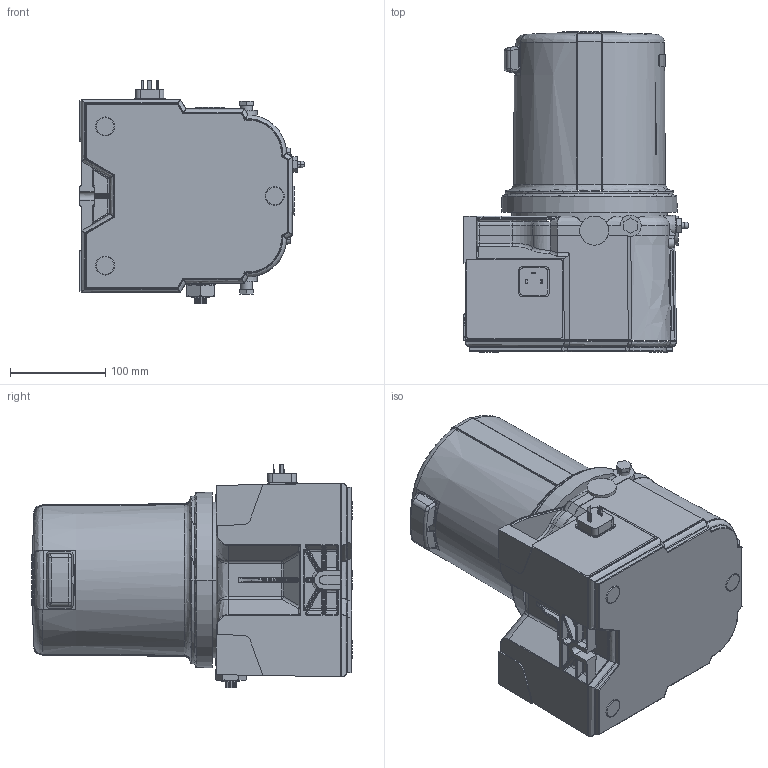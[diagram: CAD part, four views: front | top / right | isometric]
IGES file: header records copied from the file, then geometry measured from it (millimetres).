
Start section:  PTC IGES file: 94g054-en-v.igs
Global section: file name: 94g054-en-v.igs; native system: Creo Parametric by PTC Inc.; preprocessor: 2021072; author: qtmwp1; organization: Unknown; date: 20220221.150537; units: inch
Bounding box: 235.93 x 336.52 x 235 mm (x, y, z)
Surface area: 435503.7 mm2 (no closed solid volume)
Topology: 0 solids, 0 shells, 910 faces, 4528 edges, 4526 vertices
Faces by surface type: bspline 463, revolution 447
